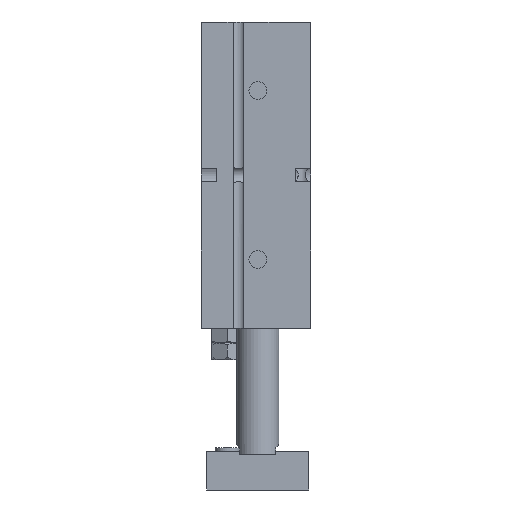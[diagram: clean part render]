
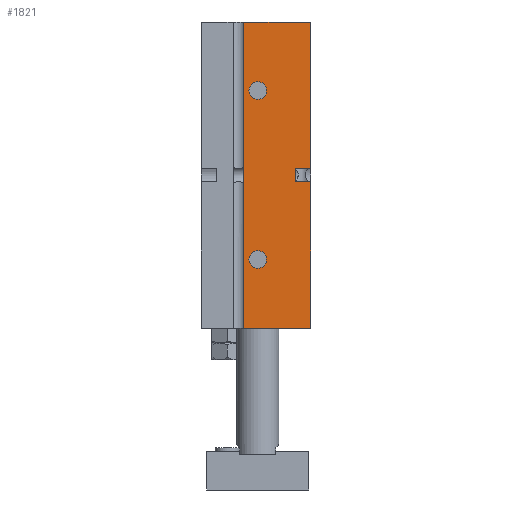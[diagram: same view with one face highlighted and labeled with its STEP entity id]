
A CAD part, front view. The second image highlights one B-rep face of the part: STEP entity #1821.
In plain terms, the highlighted planar face has unit normal (0, -1, 0).
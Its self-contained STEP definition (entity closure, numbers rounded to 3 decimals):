
#1361=CARTESIAN_POINT('',(-4.,-36.5,133.0));
#1362=VERTEX_POINT('',#1361);
#1370=CARTESIAN_POINT('',(-4.,-36.5,46.0));
#1371=VERTEX_POINT('',#1370);
#1378=CARTESIAN_POINT('',(-4.,-36.5,133.0));
#1379=DIRECTION('',(0.0,0.0,-1.0));
#1380=VECTOR('',#1379,87.0);
#1381=LINE('',#1378,#1380);
#1382=EDGE_CURVE('',#1362,#1371,#1381,.T.);
#1552=CARTESIAN_POINT('',(15.0,-36.5,133.0));
#1553=VERTEX_POINT('',#1552);
#1554=CARTESIAN_POINT('',(15.0,-36.5,133.0));
#1555=DIRECTION('',(-1.0,0.0,0.0));
#1556=VECTOR('',#1555,19.);
#1557=LINE('',#1554,#1556);
#1558=EDGE_CURVE('',#1553,#1362,#1557,.T.);
#1744=CARTESIAN_POINT('',(15.0,-36.5,46.0));
#1745=DIRECTION('',(0.0,-1.0,0.0));
#1746=DIRECTION('',(0.0,0.0,-1.0));
#1747=AXIS2_PLACEMENT_3D('',#1744,#1745,#1746);
#1748=PLANE('',#1747);
#1749=ORIENTED_EDGE('',*,*,#1382,.T.);
#1750=CARTESIAN_POINT('',(15.0,-36.5,46.0));
#1751=VERTEX_POINT('',#1750);
#1752=CARTESIAN_POINT('',(15.0,-36.5,46.0));
#1753=DIRECTION('',(-1.0,0.0,0.0));
#1754=VECTOR('',#1753,19.);
#1755=LINE('',#1752,#1754);
#1756=EDGE_CURVE('',#1751,#1371,#1755,.T.);
#1757=ORIENTED_EDGE('',*,*,#1756,.F.);
#1758=CARTESIAN_POINT('',(15.0,-36.5,87.564));
#1759=VERTEX_POINT('',#1758);
#1760=CARTESIAN_POINT('',(15.0,-36.5,46.0));
#1761=DIRECTION('',(0.0,0.0,1.0));
#1762=VECTOR('',#1761,41.564);
#1763=LINE('',#1760,#1762);
#1764=EDGE_CURVE('',#1751,#1759,#1763,.T.);
#1765=ORIENTED_EDGE('',*,*,#1764,.T.);
#1766=CARTESIAN_POINT('',(10.6,-36.5,87.564));
#1767=VERTEX_POINT('',#1766);
#1768=CARTESIAN_POINT('',(15.0,-36.5,87.564));
#1769=DIRECTION('',(-1.0,0.0,0.0));
#1770=VECTOR('',#1769,4.4);
#1771=LINE('',#1768,#1770);
#1772=EDGE_CURVE('',#1759,#1767,#1771,.T.);
#1773=ORIENTED_EDGE('',*,*,#1772,.T.);
#1774=CARTESIAN_POINT('',(10.6,-36.5,91.436));
#1775=VERTEX_POINT('',#1774);
#1776=CARTESIAN_POINT('',(10.6,-36.5,87.564));
#1777=DIRECTION('',(0.0,0.0,1.0));
#1778=VECTOR('',#1777,3.873);
#1779=LINE('',#1776,#1778);
#1780=EDGE_CURVE('',#1767,#1775,#1779,.T.);
#1781=ORIENTED_EDGE('',*,*,#1780,.T.);
#1782=CARTESIAN_POINT('',(15.0,-36.5,91.436));
#1783=VERTEX_POINT('',#1782);
#1784=CARTESIAN_POINT('',(10.6,-36.5,91.436));
#1785=DIRECTION('',(1.0,0.0,0.0));
#1786=VECTOR('',#1785,4.4);
#1787=LINE('',#1784,#1786);
#1788=EDGE_CURVE('',#1775,#1783,#1787,.T.);
#1789=ORIENTED_EDGE('',*,*,#1788,.T.);
#1790=CARTESIAN_POINT('',(15.0,-36.5,91.436));
#1791=DIRECTION('',(0.0,0.0,1.0));
#1792=VECTOR('',#1791,41.564);
#1793=LINE('',#1790,#1792);
#1794=EDGE_CURVE('',#1783,#1553,#1793,.T.);
#1795=ORIENTED_EDGE('',*,*,#1794,.T.);
#1796=ORIENTED_EDGE('',*,*,#1558,.T.);
#1797=EDGE_LOOP('',(#1749,#1757,#1765,#1773,#1781,#1789,#1795,#1796));
#1798=FACE_OUTER_BOUND('',#1797,.T.);
#1799=CARTESIAN_POINT('',(2.5,-36.5,113.5));
#1800=VERTEX_POINT('',#1799);
#1801=CARTESIAN_POINT('',(0.0,-36.5,113.5));
#1802=DIRECTION('',(0.0,1.0,0.0));
#1803=DIRECTION('',(-1.0,0.0,0.0));
#1804=AXIS2_PLACEMENT_3D('',#1801,#1802,#1803);
#1805=CIRCLE('',#1804,2.5);
#1806=EDGE_CURVE('',#1800,#1800,#1805,.T.);
#1807=ORIENTED_EDGE('',*,*,#1806,.T.);
#1808=EDGE_LOOP('',(#1807));
#1809=FACE_BOUND('',#1808,.T.);
#1810=CARTESIAN_POINT('',(2.5,-36.5,65.5));
#1811=VERTEX_POINT('',#1810);
#1812=CARTESIAN_POINT('',(0.0,-36.5,65.5));
#1813=DIRECTION('',(0.0,1.0,0.0));
#1814=DIRECTION('',(-1.0,0.0,0.0));
#1815=AXIS2_PLACEMENT_3D('',#1812,#1813,#1814);
#1816=CIRCLE('',#1815,2.5);
#1817=EDGE_CURVE('',#1811,#1811,#1816,.T.);
#1818=ORIENTED_EDGE('',*,*,#1817,.T.);
#1819=EDGE_LOOP('',(#1818));
#1820=FACE_BOUND('',#1819,.T.);
#1821=ADVANCED_FACE('',(#1798,#1809,#1820),#1748,.T.);
